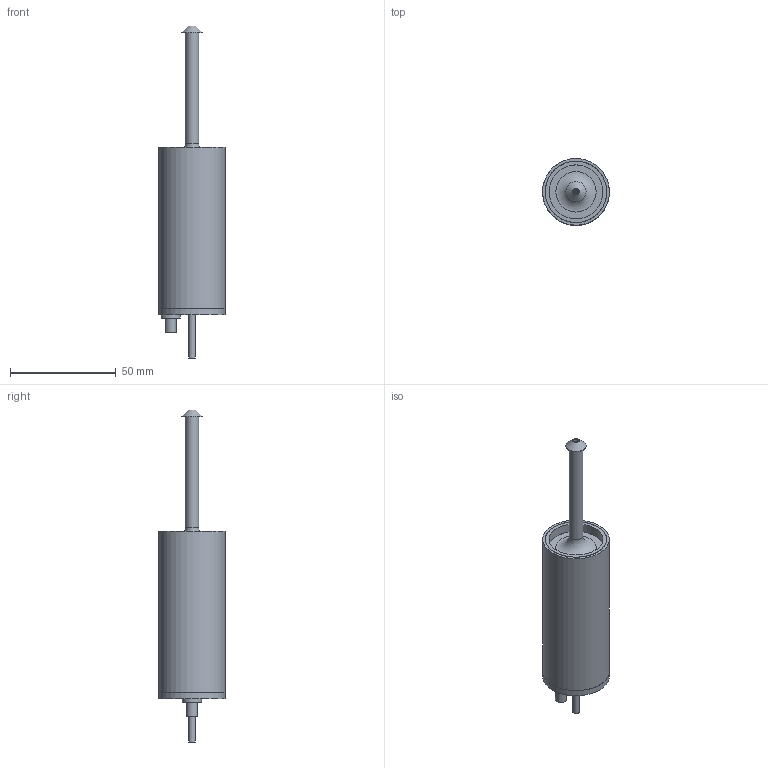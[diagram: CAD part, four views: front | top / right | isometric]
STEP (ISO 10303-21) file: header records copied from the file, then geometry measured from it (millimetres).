
FILE_DESCRIPTION((''),'2;1');
FILE_NAME('Y:\Desktop\AutoDesk\Atomizer Nozzles\20kHz\WS20K.stp','2017-08-29T13:55:43',('Owner'),(''),'Autodesk Inventor 2013','Autodesk Inventor 2013','');
FILE_SCHEMA(('AUTOMOTIVE_DESIGN { 1 0 10303 214 1 1 1 1 }'));
Length unit declared in the file: inch
Products named in the file (8): WS20K; lid; electrical connector; top tube; 1-64 screw; SON01356 20kHz Atomizer Front Driver; ring2; long case
Assembly tree (10 placements, depth 2):
  WS20K
    lid
    electrical connector
    top tube
    1-64 screw  x4
    SON01356 20kHz Atomizer Front Driver
    ring2
    long case
Bounding box: 31.55 x 31.55 x 156.61 mm (x, y, z)
Volume: 27319.2 mm3; surface area: 22677.6 mm2
Topology: 10 solids, 10 shells, 139 faces, 256 edges, 167 vertices
Faces by surface type: plane 76, cylinder 48, torus 9, cone 6
Full cylindrical faces by diameter (mm): 0.305 x1, 0.457 x1, 1.27 x1, 1.829 x1, 1.854 x12, 2.362 x1, 2.794 x1, 2.845 x4, 2.997 x4, 3.175 x2, 4.623 x1, 5.182 x1, 5.791 x1, 6.35 x2, 8.712 x1, 8.992 x1, 9.525 x1, 19.05 x1, 25.4 x4, 27.94 x1, 29.007 x2, 31.496 x1, 31.547 x1
Entity records: 2358 total; most frequent: DIRECTION 428, CARTESIAN_POINT 330, ORIENTED_EDGE 228, AXIS2_PLACEMENT_3D 202, EDGE_LOOP 184, EDGE_CURVE 114, VERTEX_POINT 104, FACE_OUTER_BOUND 94
